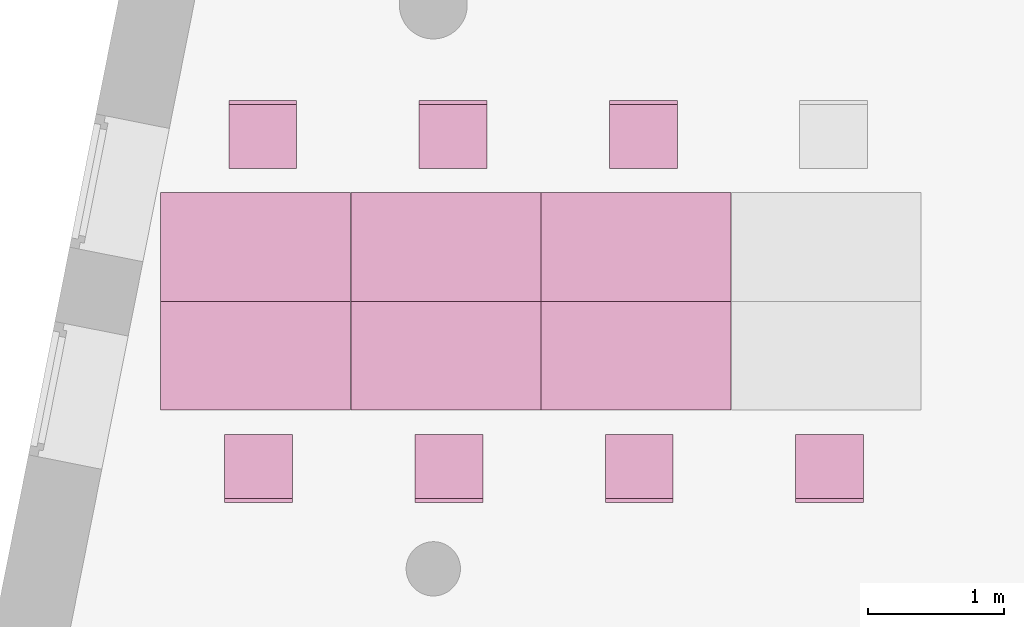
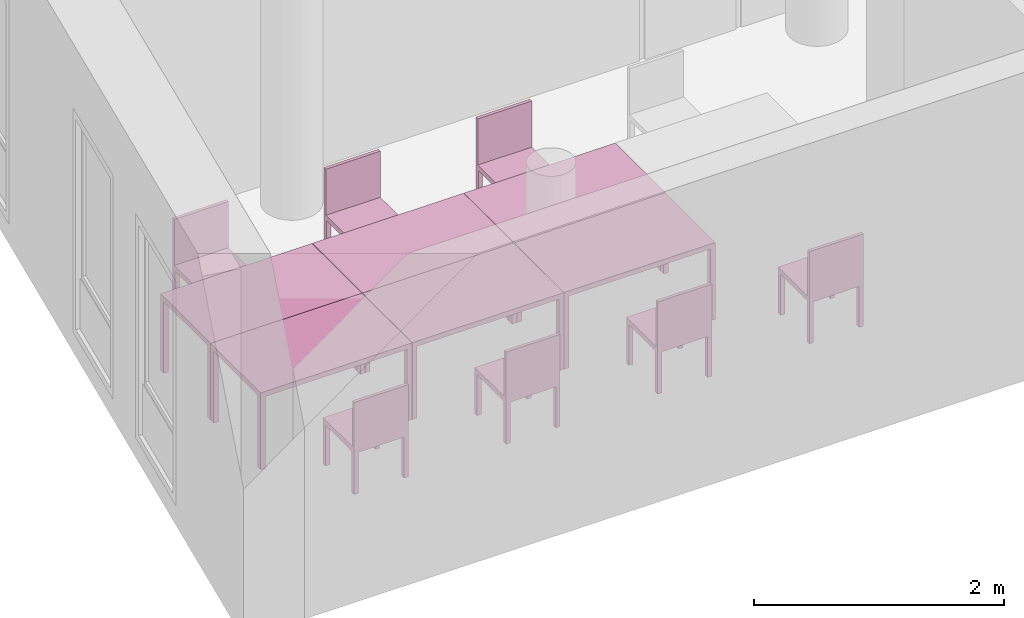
"""IFC4 building model written with IfcOpenShell, lengths in metres."""

from ifc_helpers import new_model, entity, si_unit, converted_unit, derived_unit, frame, origin, place, context, subcontext, project, spatial, faceted_brep, element, save


model = new_model("IFC4")

# Units and contexts
model_context = context("Model", 3, precision=1e-05, world=origin())
body_context = subcontext(model_context, "Body", "Model", "MODEL_VIEW")
ifc_project = project(units=[si_unit("LENGTHUNIT", "METRE"), si_unit("AREAUNIT", "SQUARE_METRE"), si_unit("VOLUMEUNIT", "CUBIC_METRE"), si_unit("MASSUNIT", "GRAM", prefix="KILO"), converted_unit("PLANEANGLEUNIT", "DEGREE", entity("IfcPlaneAngleMeasure", 0.0174532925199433), si_unit("PLANEANGLEUNIT", "RADIAN"), dimensions=[0, 0, 0, 0, 0, 0, 0]), derived_unit("THERMALTRANSMITTANCEUNIT", [(si_unit("POWERUNIT", "WATT"), 1), (si_unit("THERMODYNAMICTEMPERATUREUNIT", "KELVIN"), -1), (si_unit("LENGTHUNIT", "METRE"), -2)]), derived_unit("VOLUMETRICFLOWRATEUNIT", [(si_unit("LENGTHUNIT", "METRE"), 3), (converted_unit("TIMEUNIT", "hour", entity("IfcTimeMeasure", 3600.0), si_unit("TIMEUNIT", "SECOND"), dimensions=[0, 0, 1, 0, 0, 0, 0]), -1), (si_unit("LENGTHUNIT", "METRE"), -1)])], contexts=[model_context])

# Building, storeys
building_placement = place(None, origin())
building = spatial("IfcBuilding", under=ifc_project, at=building_placement, Name="HABITATGE PLURIFAMILIAR", CompositionType="ELEMENT")
storey_1_placement = place(building_placement, frame((0.0, 0.0, 9.26)))
storey_1 = spatial("IfcBuildingStorey", under=building, at=storey_1_placement, Name="PLANTA SEGONA", CompositionType="ELEMENT", Elevation=9.26)
storey_2_placement = place(storey_1_placement, frame((0.0, 0.0, 6.25)))
storey_2 = spatial("IfcBuildingStorey", under=storey_1, at=storey_2_placement, Name="NOU", CompositionType="PARTIAL")

# Furniture
furniture_1_placement = place(storey_2_placement, frame((399.481671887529, 16.5972248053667, -6.34505686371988)))
element("IfcFurniture", 1, at=furniture_1_placement, inside=storey_2, Name="Cadira d'Oficina_P2", context=body_context, shape_type="Brep", body=[
    faceted_brep([(0.5, 0.0, 0.4), (0.5, 0.500000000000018, 0.4), (0.0, 0.5, 0.4), (0.0, 0.0, 0.4), (0.5, 0.500000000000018, 0.45), (0.5, 0.0, 0.45), (0.0, 0.0, 0.45), (0.0, 0.5, 0.45)], [[[0, 1, 2, 3]], [[4, 5, 6, 7]], [[1, 0, 5, 4]], [[2, 1, 4, 7]], [[3, 2, 7, 6]], [[0, 3, 6, 5]]], orient=[[False], [False], [False], [False], [False], [False]]),
    faceted_brep([(0.0, 0.46, 0.0), (0.04, 0.46, 0.0), (0.04, 0.5, 0.0), (0.0, 0.5, 0.0), (0.04, 0.46, 0.4), (0.0, 0.46, 0.4), (0.0, 0.5, 0.4), (0.04, 0.5, 0.4)], [[[0, 1, 2, 3]], [[4, 5, 6, 7]], [[1, 0, 5, 4]], [[2, 1, 4, 7]], [[3, 2, 7, 6]], [[0, 3, 6, 5]]], orient=[[False], [False], [False], [False], [False], [False]]),
    faceted_brep([(0.0, 0.0, 0.0), (0.04, 0.0, 0.0), (0.04, 0.04, 0.0), (0.0, 0.04, 0.0), (0.04, 0.0, 0.4), (0.0, 0.0, 0.4), (0.0, 0.04, 0.4), (0.04, 0.04, 0.4)], [[[0, 1, 2, 3]], [[4, 5, 6, 7]], [[1, 0, 5, 4]], [[2, 1, 4, 7]], [[3, 2, 7, 6]], [[0, 3, 6, 5]]], orient=[[False], [False], [False], [False], [False], [False]]),
    faceted_brep([(0.46, 0.460000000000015, 0.0), (0.5, 0.460000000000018, 0.0), (0.5, 0.500000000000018, 0.0), (0.46, 0.500000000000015, 0.0), (0.5, 0.460000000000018, 0.4), (0.46, 0.460000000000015, 0.4), (0.46, 0.500000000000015, 0.4), (0.5, 0.500000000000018, 0.4)], [[[0, 1, 2, 3]], [[4, 5, 6, 7]], [[1, 0, 5, 4]], [[2, 1, 4, 7]], [[3, 2, 7, 6]], [[0, 3, 6, 5]]], orient=[[False], [False], [False], [False], [False], [False]]),
    faceted_brep([(0.46, 0.0, 0.0), (0.5, 0.0, 0.0), (0.5, 0.0400000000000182, 0.0), (0.46, 0.0400000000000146, 0.0), (0.5, 0.0, 0.4), (0.46, 0.0, 0.4), (0.46, 0.0400000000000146, 0.4), (0.5, 0.0400000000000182, 0.4)], [[[0, 1, 2, 3]], [[4, 5, 6, 7]], [[1, 0, 5, 4]], [[2, 1, 4, 7]], [[3, 2, 7, 6]], [[0, 3, 6, 5]]], orient=[[False], [False], [False], [False], [False], [False]]),
    faceted_brep([(0.0, 0.47, 0.45), (0.5, 0.470000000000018, 0.45), (0.5, 0.500000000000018, 0.45), (0.0, 0.5, 0.45), (0.5, 0.470000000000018, 0.9), (0.0, 0.47, 0.9), (0.0, 0.5, 0.9), (0.5, 0.500000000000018, 0.9)], [[[0, 1, 2, 3]], [[4, 5, 6, 7]], [[1, 0, 5, 4]], [[2, 1, 4, 7]], [[3, 2, 7, 6]], [[0, 3, 6, 5]]], orient=[[False], [False], [False], [False], [False], [False]]),
])
furniture_2_placement = place(storey_2_placement, frame((400.882850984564, 16.5972248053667, -6.34505686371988)))
element("IfcFurniture", 2, at=furniture_2_placement, inside=storey_2, Name="Cadira d'Oficina_P2", context=body_context, shape_type="Brep", body=[
    faceted_brep([(0.5, 0.0, 0.4), (0.5, 0.500000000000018, 0.4), (0.0, 0.5, 0.4), (0.0, 0.0, 0.4), (0.5, 0.500000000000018, 0.45), (0.5, 0.0, 0.45), (0.0, 0.0, 0.45), (0.0, 0.5, 0.45)], [[[0, 1, 2, 3]], [[4, 5, 6, 7]], [[1, 0, 5, 4]], [[2, 1, 4, 7]], [[3, 2, 7, 6]], [[0, 3, 6, 5]]], orient=[[False], [False], [False], [False], [False], [False]]),
    faceted_brep([(0.0, 0.46, 0.0), (0.04, 0.46, 0.0), (0.04, 0.5, 0.0), (0.0, 0.5, 0.0), (0.04, 0.46, 0.4), (0.0, 0.46, 0.4), (0.0, 0.5, 0.4), (0.04, 0.5, 0.4)], [[[0, 1, 2, 3]], [[4, 5, 6, 7]], [[1, 0, 5, 4]], [[2, 1, 4, 7]], [[3, 2, 7, 6]], [[0, 3, 6, 5]]], orient=[[False], [False], [False], [False], [False], [False]]),
    faceted_brep([(0.0, 0.0, 0.0), (0.04, 0.0, 0.0), (0.04, 0.04, 0.0), (0.0, 0.04, 0.0), (0.04, 0.0, 0.4), (0.0, 0.0, 0.4), (0.0, 0.04, 0.4), (0.04, 0.04, 0.4)], [[[0, 1, 2, 3]], [[4, 5, 6, 7]], [[1, 0, 5, 4]], [[2, 1, 4, 7]], [[3, 2, 7, 6]], [[0, 3, 6, 5]]], orient=[[False], [False], [False], [False], [False], [False]]),
    faceted_brep([(0.46, 0.460000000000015, 0.0), (0.5, 0.460000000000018, 0.0), (0.5, 0.500000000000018, 0.0), (0.46, 0.500000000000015, 0.0), (0.5, 0.460000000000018, 0.4), (0.46, 0.460000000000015, 0.4), (0.46, 0.500000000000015, 0.4), (0.5, 0.500000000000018, 0.4)], [[[0, 1, 2, 3]], [[4, 5, 6, 7]], [[1, 0, 5, 4]], [[2, 1, 4, 7]], [[3, 2, 7, 6]], [[0, 3, 6, 5]]], orient=[[False], [False], [False], [False], [False], [False]]),
    faceted_brep([(0.46, 0.0, 0.0), (0.5, 0.0, 0.0), (0.5, 0.0400000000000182, 0.0), (0.46, 0.0400000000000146, 0.0), (0.5, 0.0, 0.4), (0.46, 0.0, 0.4), (0.46, 0.0400000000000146, 0.4), (0.5, 0.0400000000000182, 0.4)], [[[0, 1, 2, 3]], [[4, 5, 6, 7]], [[1, 0, 5, 4]], [[2, 1, 4, 7]], [[3, 2, 7, 6]], [[0, 3, 6, 5]]], orient=[[False], [False], [False], [False], [False], [False]]),
    faceted_brep([(0.0, 0.47, 0.45), (0.5, 0.470000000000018, 0.45), (0.5, 0.500000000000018, 0.45), (0.0, 0.5, 0.45), (0.5, 0.470000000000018, 0.9), (0.0, 0.47, 0.9), (0.0, 0.5, 0.9), (0.5, 0.500000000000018, 0.9)], [[[0, 1, 2, 3]], [[4, 5, 6, 7]], [[1, 0, 5, 4]], [[2, 1, 4, 7]], [[3, 2, 7, 6]], [[0, 3, 6, 5]]], orient=[[False], [False], [False], [False], [False], [False]]),
])
furniture_3_placement = place(storey_2_placement, frame((402.282850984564, 16.5972248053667, -6.34505686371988)))
element("IfcFurniture", 3, at=furniture_3_placement, inside=storey_2, Name="Cadira d'Oficina_P2", context=body_context, shape_type="Brep", body=[
    faceted_brep([(0.5, 0.0, 0.4), (0.5, 0.500000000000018, 0.4), (0.0, 0.5, 0.4), (0.0, 0.0, 0.4), (0.5, 0.500000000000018, 0.45), (0.5, 0.0, 0.45), (0.0, 0.0, 0.45), (0.0, 0.5, 0.45)], [[[0, 1, 2, 3]], [[4, 5, 6, 7]], [[1, 0, 5, 4]], [[2, 1, 4, 7]], [[3, 2, 7, 6]], [[0, 3, 6, 5]]], orient=[[False], [False], [False], [False], [False], [False]]),
    faceted_brep([(0.0, 0.46, 0.0), (0.04, 0.46, 0.0), (0.04, 0.5, 0.0), (0.0, 0.5, 0.0), (0.04, 0.46, 0.4), (0.0, 0.46, 0.4), (0.0, 0.5, 0.4), (0.04, 0.5, 0.4)], [[[0, 1, 2, 3]], [[4, 5, 6, 7]], [[1, 0, 5, 4]], [[2, 1, 4, 7]], [[3, 2, 7, 6]], [[0, 3, 6, 5]]], orient=[[False], [False], [False], [False], [False], [False]]),
    faceted_brep([(0.0, 0.0, 0.0), (0.04, 0.0, 0.0), (0.04, 0.04, 0.0), (0.0, 0.04, 0.0), (0.04, 0.0, 0.4), (0.0, 0.0, 0.4), (0.0, 0.04, 0.4), (0.04, 0.04, 0.4)], [[[0, 1, 2, 3]], [[4, 5, 6, 7]], [[1, 0, 5, 4]], [[2, 1, 4, 7]], [[3, 2, 7, 6]], [[0, 3, 6, 5]]], orient=[[False], [False], [False], [False], [False], [False]]),
    faceted_brep([(0.46, 0.460000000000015, 0.0), (0.5, 0.460000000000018, 0.0), (0.5, 0.500000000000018, 0.0), (0.46, 0.500000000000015, 0.0), (0.5, 0.460000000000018, 0.4), (0.46, 0.460000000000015, 0.4), (0.46, 0.500000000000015, 0.4), (0.5, 0.500000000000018, 0.4)], [[[0, 1, 2, 3]], [[4, 5, 6, 7]], [[1, 0, 5, 4]], [[2, 1, 4, 7]], [[3, 2, 7, 6]], [[0, 3, 6, 5]]], orient=[[False], [False], [False], [False], [False], [False]]),
    faceted_brep([(0.46, 0.0, 0.0), (0.5, 0.0, 0.0), (0.5, 0.0400000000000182, 0.0), (0.46, 0.0400000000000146, 0.0), (0.5, 0.0, 0.4), (0.46, 0.0, 0.4), (0.46, 0.0400000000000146, 0.4), (0.5, 0.0400000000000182, 0.4)], [[[0, 1, 2, 3]], [[4, 5, 6, 7]], [[1, 0, 5, 4]], [[2, 1, 4, 7]], [[3, 2, 7, 6]], [[0, 3, 6, 5]]], orient=[[False], [False], [False], [False], [False], [False]]),
    faceted_brep([(0.0, 0.47, 0.45), (0.5, 0.470000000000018, 0.45), (0.5, 0.500000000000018, 0.45), (0.0, 0.5, 0.45), (0.5, 0.470000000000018, 0.9), (0.0, 0.47, 0.9), (0.0, 0.5, 0.9), (0.5, 0.500000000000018, 0.9)], [[[0, 1, 2, 3]], [[4, 5, 6, 7]], [[1, 0, 5, 4]], [[2, 1, 4, 7]], [[3, 2, 7, 6]], [[0, 3, 6, 5]]], orient=[[False], [False], [False], [False], [False], [False]]),
])
furniture_4_placement = place(storey_2_placement, frame((399.451671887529, 14.1388551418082, -6.34632642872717)))
element("IfcFurniture", 4, at=furniture_4_placement, inside=storey_2, Name="Cadira d'Oficina_P2", context=body_context, shape_type="Brep", body=[
    faceted_brep([(0.5, 0.5, 0.4), (0.0, 0.500000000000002, 0.4), (0.0, 0.0, 0.4), (0.5, 0.0, 0.4), (0.5, 0.0, 0.45), (0.0, 0.0, 0.45), (0.0, 0.500000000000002, 0.45), (0.5, 0.5, 0.45)], [[[0, 1, 2, 3]], [[4, 5, 6, 7]], [[3, 4, 7, 0]], [[2, 5, 4, 3]], [[1, 6, 5, 2]], [[0, 7, 6, 1]]], orient=[[False], [False], [False], [False], [False], [False]]),
    faceted_brep([(0.0, 0.0400000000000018, 0.0), (0.0, 0.0, 0.0), (0.04, 0.0, 0.0), (0.04, 0.0400000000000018, 0.0), (0.04, 0.0400000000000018, 0.4), (0.04, 0.0, 0.4), (0.0, 0.0, 0.4), (0.0, 0.0400000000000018, 0.4)], [[[0, 1, 2, 3]], [[4, 5, 6, 7]], [[3, 4, 7, 0]], [[2, 5, 4, 3]], [[1, 6, 5, 2]], [[0, 7, 6, 1]]], orient=[[False], [False], [False], [False], [False], [False]]),
    faceted_brep([(0.0, 0.500000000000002, 0.0), (0.0, 0.460000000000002, 0.0), (0.04, 0.460000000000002, 0.0), (0.04, 0.500000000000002, 0.0), (0.04, 0.500000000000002, 0.4), (0.04, 0.460000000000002, 0.4), (0.0, 0.460000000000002, 0.4), (0.0, 0.500000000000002, 0.4)], [[[0, 1, 2, 3]], [[4, 5, 6, 7]], [[3, 4, 7, 0]], [[2, 5, 4, 3]], [[1, 6, 5, 2]], [[0, 7, 6, 1]]], orient=[[False], [False], [False], [False], [False], [False]]),
    faceted_brep([(0.46, 0.04, 0.0), (0.46, 0.0, 0.0), (0.5, 0.0, 0.0), (0.5, 0.04, 0.0), (0.5, 0.04, 0.4), (0.5, 0.0, 0.4), (0.46, 0.0, 0.4), (0.46, 0.04, 0.4)], [[[0, 1, 2, 3]], [[4, 5, 6, 7]], [[3, 4, 7, 0]], [[2, 5, 4, 3]], [[1, 6, 5, 2]], [[0, 7, 6, 1]]], orient=[[False], [False], [False], [False], [False], [False]]),
    faceted_brep([(0.46, 0.5, 0.0), (0.46, 0.46, 0.0), (0.5, 0.46, 0.0), (0.5, 0.5, 0.0), (0.5, 0.5, 0.4), (0.5, 0.46, 0.4), (0.46, 0.46, 0.4), (0.46, 0.5, 0.4)], [[[0, 1, 2, 3]], [[4, 5, 6, 7]], [[3, 4, 7, 0]], [[2, 5, 4, 3]], [[1, 6, 5, 2]], [[0, 7, 6, 1]]], orient=[[False], [False], [False], [False], [False], [False]]),
    faceted_brep([(0.0, 0.0300000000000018, 0.45), (0.0, 0.0, 0.45), (0.5, 0.0, 0.45), (0.5, 0.03, 0.45), (0.5, 0.03, 0.9), (0.5, 0.0, 0.9), (0.0, 0.0, 0.9), (0.0, 0.0300000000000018, 0.9)], [[[0, 1, 2, 3]], [[4, 5, 6, 7]], [[3, 4, 7, 0]], [[2, 5, 4, 3]], [[1, 6, 5, 2]], [[0, 7, 6, 1]]], orient=[[False], [False], [False], [False], [False], [False]]),
])
furniture_5_placement = place(storey_2_placement, frame((400.852850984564, 14.1388551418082, -6.34632642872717)))
element("IfcFurniture", 5, at=furniture_5_placement, inside=storey_2, Name="Cadira d'Oficina_P2", context=body_context, shape_type="Brep", body=[
    faceted_brep([(0.5, 0.5, 0.4), (0.0, 0.500000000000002, 0.4), (0.0, 0.0, 0.4), (0.5, 0.0, 0.4), (0.5, 0.0, 0.45), (0.0, 0.0, 0.45), (0.0, 0.500000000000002, 0.45), (0.5, 0.5, 0.45)], [[[0, 1, 2, 3]], [[4, 5, 6, 7]], [[3, 4, 7, 0]], [[2, 5, 4, 3]], [[1, 6, 5, 2]], [[0, 7, 6, 1]]], orient=[[False], [False], [False], [False], [False], [False]]),
    faceted_brep([(0.0, 0.0400000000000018, 0.0), (0.0, 0.0, 0.0), (0.04, 0.0, 0.0), (0.04, 0.0400000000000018, 0.0), (0.04, 0.0400000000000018, 0.4), (0.04, 0.0, 0.4), (0.0, 0.0, 0.4), (0.0, 0.0400000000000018, 0.4)], [[[0, 1, 2, 3]], [[4, 5, 6, 7]], [[3, 4, 7, 0]], [[2, 5, 4, 3]], [[1, 6, 5, 2]], [[0, 7, 6, 1]]], orient=[[False], [False], [False], [False], [False], [False]]),
    faceted_brep([(0.0, 0.500000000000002, 0.0), (0.0, 0.460000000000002, 0.0), (0.04, 0.460000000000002, 0.0), (0.04, 0.500000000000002, 0.0), (0.04, 0.500000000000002, 0.4), (0.04, 0.460000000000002, 0.4), (0.0, 0.460000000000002, 0.4), (0.0, 0.500000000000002, 0.4)], [[[0, 1, 2, 3]], [[4, 5, 6, 7]], [[3, 4, 7, 0]], [[2, 5, 4, 3]], [[1, 6, 5, 2]], [[0, 7, 6, 1]]], orient=[[False], [False], [False], [False], [False], [False]]),
    faceted_brep([(0.46, 0.04, 0.0), (0.46, 0.0, 0.0), (0.5, 0.0, 0.0), (0.5, 0.04, 0.0), (0.5, 0.04, 0.4), (0.5, 0.0, 0.4), (0.46, 0.0, 0.4), (0.46, 0.04, 0.4)], [[[0, 1, 2, 3]], [[4, 5, 6, 7]], [[3, 4, 7, 0]], [[2, 5, 4, 3]], [[1, 6, 5, 2]], [[0, 7, 6, 1]]], orient=[[False], [False], [False], [False], [False], [False]]),
    faceted_brep([(0.46, 0.5, 0.0), (0.46, 0.46, 0.0), (0.5, 0.46, 0.0), (0.5, 0.5, 0.0), (0.5, 0.5, 0.4), (0.5, 0.46, 0.4), (0.46, 0.46, 0.4), (0.46, 0.5, 0.4)], [[[0, 1, 2, 3]], [[4, 5, 6, 7]], [[3, 4, 7, 0]], [[2, 5, 4, 3]], [[1, 6, 5, 2]], [[0, 7, 6, 1]]], orient=[[False], [False], [False], [False], [False], [False]]),
    faceted_brep([(0.0, 0.0300000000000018, 0.45), (0.0, 0.0, 0.45), (0.5, 0.0, 0.45), (0.5, 0.03, 0.45), (0.5, 0.03, 0.9), (0.5, 0.0, 0.9), (0.0, 0.0, 0.9), (0.0, 0.0300000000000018, 0.9)], [[[0, 1, 2, 3]], [[4, 5, 6, 7]], [[3, 4, 7, 0]], [[2, 5, 4, 3]], [[1, 6, 5, 2]], [[0, 7, 6, 1]]], orient=[[False], [False], [False], [False], [False], [False]]),
])
furniture_6_placement = place(storey_2_placement, frame((402.252850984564, 14.1388551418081, -6.34632642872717)))
element("IfcFurniture", 6, at=furniture_6_placement, inside=storey_2, Name="Cadira d'Oficina_P2", context=body_context, shape_type="Brep", body=[
    faceted_brep([(0.5, 0.5, 0.4), (0.0, 0.500000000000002, 0.4), (0.0, 0.0, 0.4), (0.5, 0.0, 0.4), (0.5, 0.0, 0.45), (0.0, 0.0, 0.45), (0.0, 0.500000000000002, 0.45), (0.5, 0.5, 0.45)], [[[0, 1, 2, 3]], [[4, 5, 6, 7]], [[3, 4, 7, 0]], [[2, 5, 4, 3]], [[1, 6, 5, 2]], [[0, 7, 6, 1]]], orient=[[False], [False], [False], [False], [False], [False]]),
    faceted_brep([(0.0, 0.0400000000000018, 0.0), (0.0, 0.0, 0.0), (0.04, 0.0, 0.0), (0.04, 0.0400000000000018, 0.0), (0.04, 0.0400000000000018, 0.4), (0.04, 0.0, 0.4), (0.0, 0.0, 0.4), (0.0, 0.0400000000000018, 0.4)], [[[0, 1, 2, 3]], [[4, 5, 6, 7]], [[3, 4, 7, 0]], [[2, 5, 4, 3]], [[1, 6, 5, 2]], [[0, 7, 6, 1]]], orient=[[False], [False], [False], [False], [False], [False]]),
    faceted_brep([(0.0, 0.500000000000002, 0.0), (0.0, 0.460000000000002, 0.0), (0.04, 0.460000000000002, 0.0), (0.04, 0.500000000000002, 0.0), (0.04, 0.500000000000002, 0.4), (0.04, 0.460000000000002, 0.4), (0.0, 0.460000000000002, 0.4), (0.0, 0.500000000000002, 0.4)], [[[0, 1, 2, 3]], [[4, 5, 6, 7]], [[3, 4, 7, 0]], [[2, 5, 4, 3]], [[1, 6, 5, 2]], [[0, 7, 6, 1]]], orient=[[False], [False], [False], [False], [False], [False]]),
    faceted_brep([(0.46, 0.04, 0.0), (0.46, 0.0, 0.0), (0.5, 0.0, 0.0), (0.5, 0.04, 0.0), (0.5, 0.04, 0.4), (0.5, 0.0, 0.4), (0.46, 0.0, 0.4), (0.46, 0.04, 0.4)], [[[0, 1, 2, 3]], [[4, 5, 6, 7]], [[3, 4, 7, 0]], [[2, 5, 4, 3]], [[1, 6, 5, 2]], [[0, 7, 6, 1]]], orient=[[False], [False], [False], [False], [False], [False]]),
    faceted_brep([(0.46, 0.5, 0.0), (0.46, 0.46, 0.0), (0.5, 0.46, 0.0), (0.5, 0.5, 0.0), (0.5, 0.5, 0.4), (0.5, 0.46, 0.4), (0.46, 0.46, 0.4), (0.46, 0.5, 0.4)], [[[0, 1, 2, 3]], [[4, 5, 6, 7]], [[3, 4, 7, 0]], [[2, 5, 4, 3]], [[1, 6, 5, 2]], [[0, 7, 6, 1]]], orient=[[False], [False], [False], [False], [False], [False]]),
    faceted_brep([(0.0, 0.0300000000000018, 0.45), (0.0, 0.0, 0.45), (0.5, 0.0, 0.45), (0.5, 0.03, 0.45), (0.5, 0.03, 0.9), (0.5, 0.0, 0.9), (0.0, 0.0, 0.9), (0.0, 0.0300000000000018, 0.9)], [[[0, 1, 2, 3]], [[4, 5, 6, 7]], [[3, 4, 7, 0]], [[2, 5, 4, 3]], [[1, 6, 5, 2]], [[0, 7, 6, 1]]], orient=[[False], [False], [False], [False], [False], [False]]),
])
furniture_7_placement = place(storey_2_placement, frame((403.652850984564, 14.1388551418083, -6.34632642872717)))
element("IfcFurniture", 7, at=furniture_7_placement, inside=storey_2, Name="Cadira d'Oficina_P2", context=body_context, shape_type="Brep", body=[
    faceted_brep([(0.5, 0.5, 0.4), (0.0, 0.500000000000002, 0.4), (0.0, 0.0, 0.4), (0.5, 0.0, 0.4), (0.5, 0.0, 0.45), (0.0, 0.0, 0.45), (0.0, 0.500000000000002, 0.45), (0.5, 0.5, 0.45)], [[[0, 1, 2, 3]], [[4, 5, 6, 7]], [[3, 4, 7, 0]], [[2, 5, 4, 3]], [[1, 6, 5, 2]], [[0, 7, 6, 1]]], orient=[[False], [False], [False], [False], [False], [False]]),
    faceted_brep([(0.0, 0.0400000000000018, 0.0), (0.0, 0.0, 0.0), (0.04, 0.0, 0.0), (0.04, 0.0400000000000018, 0.0), (0.04, 0.0400000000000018, 0.4), (0.04, 0.0, 0.4), (0.0, 0.0, 0.4), (0.0, 0.0400000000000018, 0.4)], [[[0, 1, 2, 3]], [[4, 5, 6, 7]], [[3, 4, 7, 0]], [[2, 5, 4, 3]], [[1, 6, 5, 2]], [[0, 7, 6, 1]]], orient=[[False], [False], [False], [False], [False], [False]]),
    faceted_brep([(0.0, 0.500000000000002, 0.0), (0.0, 0.460000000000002, 0.0), (0.04, 0.460000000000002, 0.0), (0.04, 0.500000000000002, 0.0), (0.04, 0.500000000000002, 0.4), (0.04, 0.460000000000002, 0.4), (0.0, 0.460000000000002, 0.4), (0.0, 0.500000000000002, 0.4)], [[[0, 1, 2, 3]], [[4, 5, 6, 7]], [[3, 4, 7, 0]], [[2, 5, 4, 3]], [[1, 6, 5, 2]], [[0, 7, 6, 1]]], orient=[[False], [False], [False], [False], [False], [False]]),
    faceted_brep([(0.46, 0.04, 0.0), (0.46, 0.0, 0.0), (0.5, 0.0, 0.0), (0.5, 0.04, 0.0), (0.5, 0.04, 0.4), (0.5, 0.0, 0.4), (0.46, 0.0, 0.4), (0.46, 0.04, 0.4)], [[[0, 1, 2, 3]], [[4, 5, 6, 7]], [[3, 4, 7, 0]], [[2, 5, 4, 3]], [[1, 6, 5, 2]], [[0, 7, 6, 1]]], orient=[[False], [False], [False], [False], [False], [False]]),
    faceted_brep([(0.46, 0.5, 0.0), (0.46, 0.46, 0.0), (0.5, 0.46, 0.0), (0.5, 0.5, 0.0), (0.5, 0.5, 0.4), (0.5, 0.46, 0.4), (0.46, 0.46, 0.4), (0.46, 0.5, 0.4)], [[[0, 1, 2, 3]], [[4, 5, 6, 7]], [[3, 4, 7, 0]], [[2, 5, 4, 3]], [[1, 6, 5, 2]], [[0, 7, 6, 1]]], orient=[[False], [False], [False], [False], [False], [False]]),
    faceted_brep([(0.0, 0.0300000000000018, 0.45), (0.0, 0.0, 0.45), (0.5, 0.0, 0.45), (0.5, 0.03, 0.45), (0.5, 0.03, 0.9), (0.5, 0.0, 0.9), (0.0, 0.0, 0.9), (0.0, 0.0300000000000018, 0.9)], [[[0, 1, 2, 3]], [[4, 5, 6, 7]], [[3, 4, 7, 0]], [[2, 5, 4, 3]], [[1, 6, 5, 2]], [[0, 7, 6, 1]]], orient=[[False], [False], [False], [False], [False], [False]]),
])
furniture_8_placement = place(storey_2_placement, frame((398.979685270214, 14.8179709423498, -6.3499999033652)))
element("IfcFurniture", 8, at=furniture_8_placement, inside=storey_2, Name="Taula 140X80_P2", context=body_context, shape_type="Brep", body=[
    faceted_brep([(0.04375, 0.750069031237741, 0.0), (0.04375, 0.800069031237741, 0.0), (0.0, 0.800069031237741, 0.0), (0.0, 0.750069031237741, 0.0), (0.04375, 0.800069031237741, 0.7), (0.04375, 0.750069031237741, 0.7), (0.0, 0.750069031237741, 0.7), (0.0, 0.800069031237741, 0.7)], [[[0, 1, 2, 3]], [[4, 5, 6, 7]], [[1, 0, 5, 4]], [[2, 1, 4, 7]], [[3, 2, 7, 6]], [[0, 3, 6, 5]]], orient=[[False], [False], [False], [False], [False], [False]]),
    faceted_brep([(0.04375, 0.0, 0.0), (0.04375, 0.05, 0.0), (0.0, 0.05, 0.0), (0.0, 0.0, 0.0), (0.04375, 0.05, 0.7), (0.04375, 0.0, 0.7), (0.0, 0.0, 0.7), (0.0, 0.05, 0.7)], [[[0, 1, 2, 3]], [[4, 5, 6, 7]], [[1, 0, 5, 4]], [[2, 1, 4, 7]], [[3, 2, 7, 6]], [[0, 3, 6, 5]]], orient=[[False], [False], [False], [False], [False], [False]]),
    faceted_brep([(1.39732768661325, 0.0, 0.7), (1.39732768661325, 0.800069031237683, 0.7), (0.0, 0.800069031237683, 0.7), (0.0, 0.0, 0.7), (1.39732768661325, 0.800069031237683, 0.75), (1.39732768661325, 0.0, 0.75), (0.0, 0.0, 0.75), (0.0, 0.800069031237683, 0.75)], [[[0, 1, 2, 3]], [[4, 5, 6, 7]], [[1, 0, 5, 4]], [[2, 1, 4, 7]], [[3, 2, 7, 6]], [[0, 3, 6, 5]]], orient=[[False], [False], [False], [False], [False], [False]]),
    faceted_brep([(1.39732768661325, 0.750069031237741, 0.0), (1.39732768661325, 0.800069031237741, 0.0), (1.35357768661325, 0.800069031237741, 0.0), (1.35357768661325, 0.750069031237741, 0.0), (1.39732768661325, 0.800069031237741, 0.7), (1.39732768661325, 0.750069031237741, 0.7), (1.35357768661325, 0.750069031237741, 0.7), (1.35357768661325, 0.800069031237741, 0.7)], [[[0, 1, 2, 3]], [[4, 5, 6, 7]], [[1, 0, 5, 4]], [[2, 1, 4, 7]], [[3, 2, 7, 6]], [[0, 3, 6, 5]]], orient=[[False], [False], [False], [False], [False], [False]]),
    faceted_brep([(1.39732768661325, 0.0, 0.0), (1.39732768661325, 0.05, 0.0), (1.35357768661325, 0.05, 0.0), (1.35357768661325, 0.0, 0.0), (1.39732768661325, 0.05, 0.7), (1.39732768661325, 0.0, 0.7), (1.35357768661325, 0.0, 0.7), (1.35357768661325, 0.05, 0.7)], [[[0, 1, 2, 3]], [[4, 5, 6, 7]], [[1, 0, 5, 4]], [[2, 1, 4, 7]], [[3, 2, 7, 6]], [[0, 3, 6, 5]]], orient=[[False], [False], [False], [False], [False], [False]]),
])
furniture_9_placement = place(storey_2_placement, frame((398.979685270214, 15.6180399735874, -6.3499999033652)))
element("IfcFurniture", 9, at=furniture_9_placement, inside=storey_2, Name="Taula 140X80_P2", context=body_context, shape_type="Brep", body=[
    faceted_brep([(0.04375, 0.05, 0.0), (0.0, 0.05, 0.0), (0.0, 0.0, 0.0), (0.04375, 0.0, 0.0), (0.04375, 0.0, 0.7), (0.0, 0.0, 0.7), (0.0, 0.05, 0.7), (0.04375, 0.05, 0.7)], [[[0, 1, 2, 3]], [[4, 5, 6, 7]], [[3, 4, 7, 0]], [[2, 5, 4, 3]], [[1, 6, 5, 2]], [[0, 7, 6, 1]]], orient=[[False], [False], [False], [False], [False], [False]]),
    faceted_brep([(0.04375, 0.800069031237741, 0.0), (0.0, 0.800069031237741, 0.0), (0.0, 0.750069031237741, 0.0), (0.04375, 0.750069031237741, 0.0), (0.04375, 0.750069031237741, 0.7), (0.0, 0.750069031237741, 0.7), (0.0, 0.800069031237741, 0.7), (0.04375, 0.800069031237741, 0.7)], [[[0, 1, 2, 3]], [[4, 5, 6, 7]], [[3, 4, 7, 0]], [[2, 5, 4, 3]], [[1, 6, 5, 2]], [[0, 7, 6, 1]]], orient=[[False], [False], [False], [False], [False], [False]]),
    faceted_brep([(1.39732768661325, 0.800069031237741, 0.7), (0.0, 0.800069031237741, 0.7), (0.0, 0.0, 0.7), (1.39732768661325, 0.0, 0.7), (1.39732768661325, 0.0, 0.75), (0.0, 0.0, 0.75), (0.0, 0.800069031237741, 0.75), (1.39732768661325, 0.800069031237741, 0.75)], [[[0, 1, 2, 3]], [[4, 5, 6, 7]], [[3, 4, 7, 0]], [[2, 5, 4, 3]], [[1, 6, 5, 2]], [[0, 7, 6, 1]]], orient=[[False], [False], [False], [False], [False], [False]]),
    faceted_brep([(1.39732768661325, 0.05, 0.0), (1.35357768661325, 0.05, 0.0), (1.35357768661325, 0.0, 0.0), (1.39732768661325, 0.0, 0.0), (1.39732768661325, 0.0, 0.7), (1.35357768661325, 0.0, 0.7), (1.35357768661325, 0.05, 0.7), (1.39732768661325, 0.05, 0.7)], [[[0, 1, 2, 3]], [[4, 5, 6, 7]], [[3, 4, 7, 0]], [[2, 5, 4, 3]], [[1, 6, 5, 2]], [[0, 7, 6, 1]]], orient=[[False], [False], [False], [False], [False], [False]]),
    faceted_brep([(1.39732768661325, 0.800069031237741, 0.0), (1.35357768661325, 0.800069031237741, 0.0), (1.35357768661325, 0.750069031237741, 0.0), (1.39732768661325, 0.750069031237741, 0.0), (1.39732768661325, 0.750069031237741, 0.7), (1.35357768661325, 0.750069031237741, 0.7), (1.35357768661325, 0.800069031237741, 0.7), (1.39732768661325, 0.800069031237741, 0.7)], [[[0, 1, 2, 3]], [[4, 5, 6, 7]], [[3, 4, 7, 0]], [[2, 5, 4, 3]], [[1, 6, 5, 2]], [[0, 7, 6, 1]]], orient=[[False], [False], [False], [False], [False], [False]]),
])
furniture_10_placement = place(storey_2_placement, frame((400.38086436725, 14.8179709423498, -6.3499999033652)))
element("IfcFurniture", 10, at=furniture_10_placement, inside=storey_2, Name="Taula 140X80_P2", context=body_context, shape_type="Brep", body=[
    faceted_brep([(0.04375, 0.750069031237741, 0.0), (0.04375, 0.800069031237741, 0.0), (0.0, 0.800069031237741, 0.0), (0.0, 0.750069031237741, 0.0), (0.04375, 0.800069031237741, 0.7), (0.04375, 0.750069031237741, 0.7), (0.0, 0.750069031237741, 0.7), (0.0, 0.800069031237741, 0.7)], [[[0, 1, 2, 3]], [[4, 5, 6, 7]], [[1, 0, 5, 4]], [[2, 1, 4, 7]], [[3, 2, 7, 6]], [[0, 3, 6, 5]]], orient=[[False], [False], [False], [False], [False], [False]]),
    faceted_brep([(0.04375, 0.0, 0.0), (0.04375, 0.05, 0.0), (0.0, 0.05, 0.0), (0.0, 0.0, 0.0), (0.04375, 0.05, 0.7), (0.04375, 0.0, 0.7), (0.0, 0.0, 0.7), (0.0, 0.05, 0.7)], [[[0, 1, 2, 3]], [[4, 5, 6, 7]], [[1, 0, 5, 4]], [[2, 1, 4, 7]], [[3, 2, 7, 6]], [[0, 3, 6, 5]]], orient=[[False], [False], [False], [False], [False], [False]]),
    faceted_brep([(1.39732768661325, 0.0, 0.7), (1.39732768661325, 0.800069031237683, 0.7), (0.0, 0.800069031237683, 0.7), (0.0, 0.0, 0.7), (1.39732768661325, 0.800069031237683, 0.75), (1.39732768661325, 0.0, 0.75), (0.0, 0.0, 0.75), (0.0, 0.800069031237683, 0.75)], [[[0, 1, 2, 3]], [[4, 5, 6, 7]], [[1, 0, 5, 4]], [[2, 1, 4, 7]], [[3, 2, 7, 6]], [[0, 3, 6, 5]]], orient=[[False], [False], [False], [False], [False], [False]]),
    faceted_brep([(1.39732768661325, 0.750069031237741, 0.0), (1.39732768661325, 0.800069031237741, 0.0), (1.35357768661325, 0.800069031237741, 0.0), (1.35357768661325, 0.750069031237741, 0.0), (1.39732768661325, 0.800069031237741, 0.7), (1.39732768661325, 0.750069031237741, 0.7), (1.35357768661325, 0.750069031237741, 0.7), (1.35357768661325, 0.800069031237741, 0.7)], [[[0, 1, 2, 3]], [[4, 5, 6, 7]], [[1, 0, 5, 4]], [[2, 1, 4, 7]], [[3, 2, 7, 6]], [[0, 3, 6, 5]]], orient=[[False], [False], [False], [False], [False], [False]]),
    faceted_brep([(1.39732768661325, 0.0, 0.0), (1.39732768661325, 0.05, 0.0), (1.35357768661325, 0.05, 0.0), (1.35357768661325, 0.0, 0.0), (1.39732768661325, 0.05, 0.7), (1.39732768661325, 0.0, 0.7), (1.35357768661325, 0.0, 0.7), (1.35357768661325, 0.05, 0.7)], [[[0, 1, 2, 3]], [[4, 5, 6, 7]], [[1, 0, 5, 4]], [[2, 1, 4, 7]], [[3, 2, 7, 6]], [[0, 3, 6, 5]]], orient=[[False], [False], [False], [False], [False], [False]]),
])
furniture_11_placement = place(storey_2_placement, frame((400.38086436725, 15.6180399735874, -6.3499999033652)))
element("IfcFurniture", 11, at=furniture_11_placement, inside=storey_2, Name="Taula 140X80_P2", context=body_context, shape_type="Brep", body=[
    faceted_brep([(0.04375, 0.05, 0.0), (0.0, 0.05, 0.0), (0.0, 0.0, 0.0), (0.04375, 0.0, 0.0), (0.04375, 0.0, 0.7), (0.0, 0.0, 0.7), (0.0, 0.05, 0.7), (0.04375, 0.05, 0.7)], [[[0, 1, 2, 3]], [[4, 5, 6, 7]], [[3, 4, 7, 0]], [[2, 5, 4, 3]], [[1, 6, 5, 2]], [[0, 7, 6, 1]]], orient=[[False], [False], [False], [False], [False], [False]]),
    faceted_brep([(0.04375, 0.800069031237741, 0.0), (0.0, 0.800069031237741, 0.0), (0.0, 0.750069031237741, 0.0), (0.04375, 0.750069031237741, 0.0), (0.04375, 0.750069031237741, 0.7), (0.0, 0.750069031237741, 0.7), (0.0, 0.800069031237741, 0.7), (0.04375, 0.800069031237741, 0.7)], [[[0, 1, 2, 3]], [[4, 5, 6, 7]], [[3, 4, 7, 0]], [[2, 5, 4, 3]], [[1, 6, 5, 2]], [[0, 7, 6, 1]]], orient=[[False], [False], [False], [False], [False], [False]]),
    faceted_brep([(1.39732768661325, 0.800069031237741, 0.7), (0.0, 0.800069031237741, 0.7), (0.0, 0.0, 0.7), (1.39732768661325, 0.0, 0.7), (1.39732768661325, 0.0, 0.75), (0.0, 0.0, 0.75), (0.0, 0.800069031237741, 0.75), (1.39732768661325, 0.800069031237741, 0.75)], [[[0, 1, 2, 3]], [[4, 5, 6, 7]], [[3, 4, 7, 0]], [[2, 5, 4, 3]], [[1, 6, 5, 2]], [[0, 7, 6, 1]]], orient=[[False], [False], [False], [False], [False], [False]]),
    faceted_brep([(1.39732768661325, 0.05, 0.0), (1.35357768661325, 0.05, 0.0), (1.35357768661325, 0.0, 0.0), (1.39732768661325, 0.0, 0.0), (1.39732768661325, 0.0, 0.7), (1.35357768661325, 0.0, 0.7), (1.35357768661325, 0.05, 0.7), (1.39732768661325, 0.05, 0.7)], [[[0, 1, 2, 3]], [[4, 5, 6, 7]], [[3, 4, 7, 0]], [[2, 5, 4, 3]], [[1, 6, 5, 2]], [[0, 7, 6, 1]]], orient=[[False], [False], [False], [False], [False], [False]]),
    faceted_brep([(1.39732768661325, 0.800069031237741, 0.0), (1.35357768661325, 0.800069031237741, 0.0), (1.35357768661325, 0.750069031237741, 0.0), (1.39732768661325, 0.750069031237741, 0.0), (1.39732768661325, 0.750069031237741, 0.7), (1.35357768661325, 0.750069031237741, 0.7), (1.35357768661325, 0.800069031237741, 0.7), (1.39732768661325, 0.800069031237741, 0.7)], [[[0, 1, 2, 3]], [[4, 5, 6, 7]], [[3, 4, 7, 0]], [[2, 5, 4, 3]], [[1, 6, 5, 2]], [[0, 7, 6, 1]]], orient=[[False], [False], [False], [False], [False], [False]]),
])
furniture_12_placement = place(storey_2_placement, frame((401.78086436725, 14.8179709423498, -6.3499999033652)))
element("IfcFurniture", 12, at=furniture_12_placement, inside=storey_2, Name="Taula 140X80_P2", context=body_context, shape_type="Brep", body=[
    faceted_brep([(0.04375, 0.750069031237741, 0.0), (0.04375, 0.800069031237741, 0.0), (0.0, 0.800069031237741, 0.0), (0.0, 0.750069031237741, 0.0), (0.04375, 0.800069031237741, 0.7), (0.04375, 0.750069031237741, 0.7), (0.0, 0.750069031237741, 0.7), (0.0, 0.800069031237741, 0.7)], [[[0, 1, 2, 3]], [[4, 5, 6, 7]], [[1, 0, 5, 4]], [[2, 1, 4, 7]], [[3, 2, 7, 6]], [[0, 3, 6, 5]]], orient=[[False], [False], [False], [False], [False], [False]]),
    faceted_brep([(0.04375, 0.0, 0.0), (0.04375, 0.05, 0.0), (0.0, 0.05, 0.0), (0.0, 0.0, 0.0), (0.04375, 0.05, 0.7), (0.04375, 0.0, 0.7), (0.0, 0.0, 0.7), (0.0, 0.05, 0.7)], [[[0, 1, 2, 3]], [[4, 5, 6, 7]], [[1, 0, 5, 4]], [[2, 1, 4, 7]], [[3, 2, 7, 6]], [[0, 3, 6, 5]]], orient=[[False], [False], [False], [False], [False], [False]]),
    faceted_brep([(1.39732768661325, 0.0, 0.7), (1.39732768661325, 0.800069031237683, 0.7), (0.0, 0.800069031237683, 0.7), (0.0, 0.0, 0.7), (1.39732768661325, 0.800069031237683, 0.75), (1.39732768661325, 0.0, 0.75), (0.0, 0.0, 0.75), (0.0, 0.800069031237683, 0.75)], [[[0, 1, 2, 3]], [[4, 5, 6, 7]], [[1, 0, 5, 4]], [[2, 1, 4, 7]], [[3, 2, 7, 6]], [[0, 3, 6, 5]]], orient=[[False], [False], [False], [False], [False], [False]]),
    faceted_brep([(1.39732768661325, 0.750069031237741, 0.0), (1.39732768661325, 0.800069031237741, 0.0), (1.35357768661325, 0.800069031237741, 0.0), (1.35357768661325, 0.750069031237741, 0.0), (1.39732768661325, 0.800069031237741, 0.7), (1.39732768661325, 0.750069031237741, 0.7), (1.35357768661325, 0.750069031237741, 0.7), (1.35357768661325, 0.800069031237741, 0.7)], [[[0, 1, 2, 3]], [[4, 5, 6, 7]], [[1, 0, 5, 4]], [[2, 1, 4, 7]], [[3, 2, 7, 6]], [[0, 3, 6, 5]]], orient=[[False], [False], [False], [False], [False], [False]]),
    faceted_brep([(1.39732768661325, 0.0, 0.0), (1.39732768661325, 0.05, 0.0), (1.35357768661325, 0.05, 0.0), (1.35357768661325, 0.0, 0.0), (1.39732768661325, 0.05, 0.7), (1.39732768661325, 0.0, 0.7), (1.35357768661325, 0.0, 0.7), (1.35357768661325, 0.05, 0.7)], [[[0, 1, 2, 3]], [[4, 5, 6, 7]], [[1, 0, 5, 4]], [[2, 1, 4, 7]], [[3, 2, 7, 6]], [[0, 3, 6, 5]]], orient=[[False], [False], [False], [False], [False], [False]]),
])
furniture_13_placement = place(storey_2_placement, frame((401.78086436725, 15.6180399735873, -6.3499999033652)))
element("IfcFurniture", 13, at=furniture_13_placement, inside=storey_2, Name="Taula 140X80_P2", context=body_context, shape_type="Brep", body=[
    faceted_brep([(0.04375, 0.05, 0.0), (0.0, 0.05, 0.0), (0.0, 0.0, 0.0), (0.04375, 0.0, 0.0), (0.04375, 0.0, 0.7), (0.0, 0.0, 0.7), (0.0, 0.05, 0.7), (0.04375, 0.05, 0.7)], [[[0, 1, 2, 3]], [[4, 5, 6, 7]], [[3, 4, 7, 0]], [[2, 5, 4, 3]], [[1, 6, 5, 2]], [[0, 7, 6, 1]]], orient=[[False], [False], [False], [False], [False], [False]]),
    faceted_brep([(0.04375, 0.800069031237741, 0.0), (0.0, 0.800069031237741, 0.0), (0.0, 0.750069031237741, 0.0), (0.04375, 0.750069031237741, 0.0), (0.04375, 0.750069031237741, 0.7), (0.0, 0.750069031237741, 0.7), (0.0, 0.800069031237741, 0.7), (0.04375, 0.800069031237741, 0.7)], [[[0, 1, 2, 3]], [[4, 5, 6, 7]], [[3, 4, 7, 0]], [[2, 5, 4, 3]], [[1, 6, 5, 2]], [[0, 7, 6, 1]]], orient=[[False], [False], [False], [False], [False], [False]]),
    faceted_brep([(1.39732768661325, 0.800069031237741, 0.7), (0.0, 0.800069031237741, 0.7), (0.0, 0.0, 0.7), (1.39732768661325, 0.0, 0.7), (1.39732768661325, 0.0, 0.75), (0.0, 0.0, 0.75), (0.0, 0.800069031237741, 0.75), (1.39732768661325, 0.800069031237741, 0.75)], [[[0, 1, 2, 3]], [[4, 5, 6, 7]], [[3, 4, 7, 0]], [[2, 5, 4, 3]], [[1, 6, 5, 2]], [[0, 7, 6, 1]]], orient=[[False], [False], [False], [False], [False], [False]]),
    faceted_brep([(1.39732768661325, 0.05, 0.0), (1.35357768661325, 0.05, 0.0), (1.35357768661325, 0.0, 0.0), (1.39732768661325, 0.0, 0.0), (1.39732768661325, 0.0, 0.7), (1.35357768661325, 0.0, 0.7), (1.35357768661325, 0.05, 0.7), (1.39732768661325, 0.05, 0.7)], [[[0, 1, 2, 3]], [[4, 5, 6, 7]], [[3, 4, 7, 0]], [[2, 5, 4, 3]], [[1, 6, 5, 2]], [[0, 7, 6, 1]]], orient=[[False], [False], [False], [False], [False], [False]]),
    faceted_brep([(1.39732768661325, 0.800069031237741, 0.0), (1.35357768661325, 0.800069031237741, 0.0), (1.35357768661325, 0.750069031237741, 0.0), (1.39732768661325, 0.750069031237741, 0.0), (1.39732768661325, 0.750069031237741, 0.7), (1.35357768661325, 0.750069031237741, 0.7), (1.35357768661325, 0.800069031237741, 0.7), (1.39732768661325, 0.800069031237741, 0.7)], [[[0, 1, 2, 3]], [[4, 5, 6, 7]], [[3, 4, 7, 0]], [[2, 5, 4, 3]], [[1, 6, 5, 2]], [[0, 7, 6, 1]]], orient=[[False], [False], [False], [False], [False], [False]]),
])

save(model, "model.ifc")
